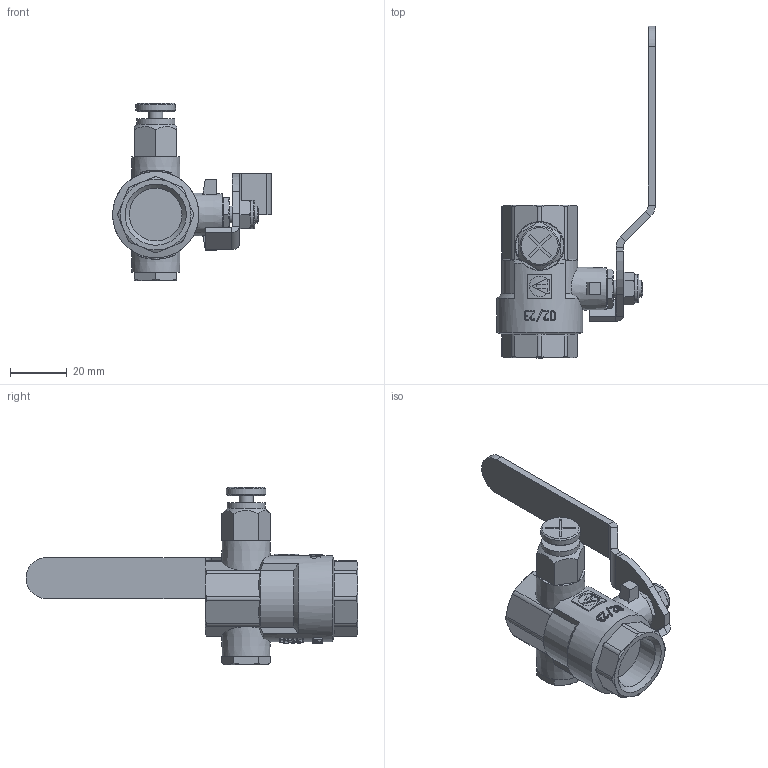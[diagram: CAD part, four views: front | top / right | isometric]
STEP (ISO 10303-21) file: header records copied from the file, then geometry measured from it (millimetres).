
FILE_DESCRIPTION(('STEP AP203'), '1');
FILE_NAME('VT.245.N.04', '2024-09-12T09:45:31', ('User'), ('Vesta'), 'C3D Converter', 'C3D Toolkit', '');
FILE_SCHEMA(('CONFIG_CONTROL_DESIGN'));
Length unit declared in the file: millimetre
Products named in the file (3): ВР.745303.001
Assembly tree (2 placements, depth 2):
  (unnamed)
    ВР.745303.001
    (unnamed)
Bounding box: 56.15 x 117.3 x 62.8 mm (x, y, z)
Volume: 40934.1 mm3; surface area: 14379 mm2
Topology: 1 solids, 1 shells, 789 faces, 2139 edges, 1393 vertices
Faces by surface type: extrusion 340, plane 324, cylinder 70, cone 54, torus 1
Full cylindrical faces by diameter (mm): 5 x1, 6 x2, 10 x1, 11 x1, 13.5 x1, 14 x1, 18.632 x2, 30.5 x1
Entity records: 36118 total; most frequent: CARTESIAN_POINT 18098, ORIENTED_EDGE 4228, DIRECTION 2630, EDGE_CURVE 2114, VERTEX_POINT 1392, VECTOR 1208, B_SPLINE_CURVE_WITH_KNOTS 1184, LINE 868
